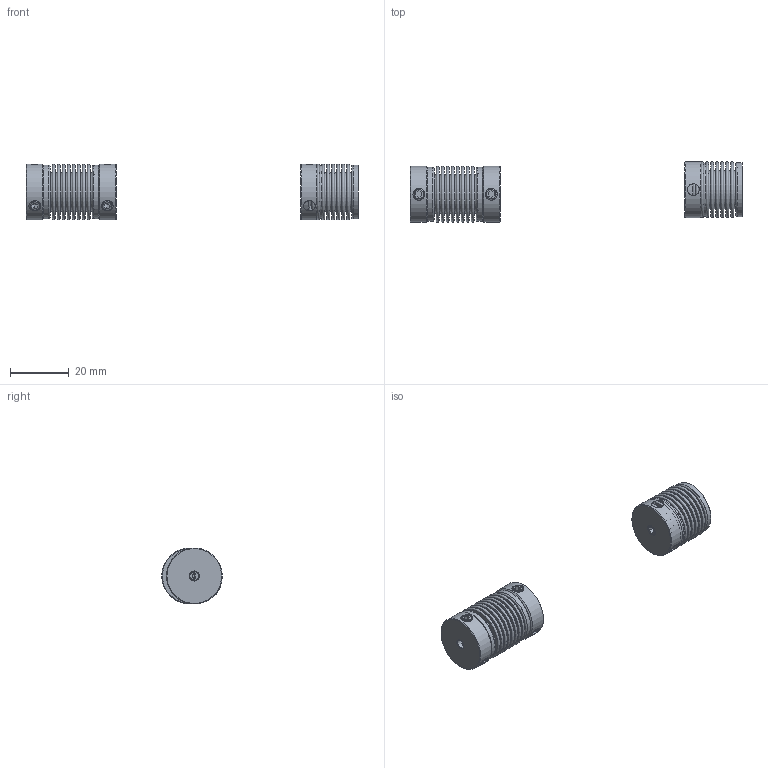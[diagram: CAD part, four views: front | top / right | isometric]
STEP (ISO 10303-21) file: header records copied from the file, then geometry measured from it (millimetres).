
FILE_DESCRIPTION( ( 'Unknown' ), '1' );
FILE_NAME( 'C:/Dokumente und Einstellungen/Sven/Desktop/cad - homepage/KB1/KB1-15-30.stp', 'Unknown', ( 'Unknown' ), ( 'Unknown' ), 'XStep 1.0', 'Unknown', ' ' );
FILE_SCHEMA( ( 'automotive_design' ) );
Length unit declared in the file: millimetre
Products named in the file (4): Assem1; Socket Set Screw Cup Point_DIN_DIN 916 - M4 x 6-N_0; MN15_Standard_0; BL15_Standard
Bounding box: 112.73 x 20.57 x 19 mm (x, y, z)
Volume: 7080.4 mm3; surface area: 17382.7 mm2
Topology: 10 solids, 10 shells, 259 faces, 499 edges, 323 vertices
Faces by surface type: plane 128, torus 76, cylinder 28, cone 27
Full cylindrical faces by diameter (mm): 3 x3, 4 x11, 18 x7, 18.3 x4, 19 x3
Entity records: 2611 total; most frequent: CARTESIAN_POINT 543, DIRECTION 438, ORIENTED_EDGE 244, AXIS2_PLACEMENT_3D 209, EDGE_LOOP 203, FACE_OUTER_BOUND 153, EDGE_CURVE 122, VERTEX_POINT 114
